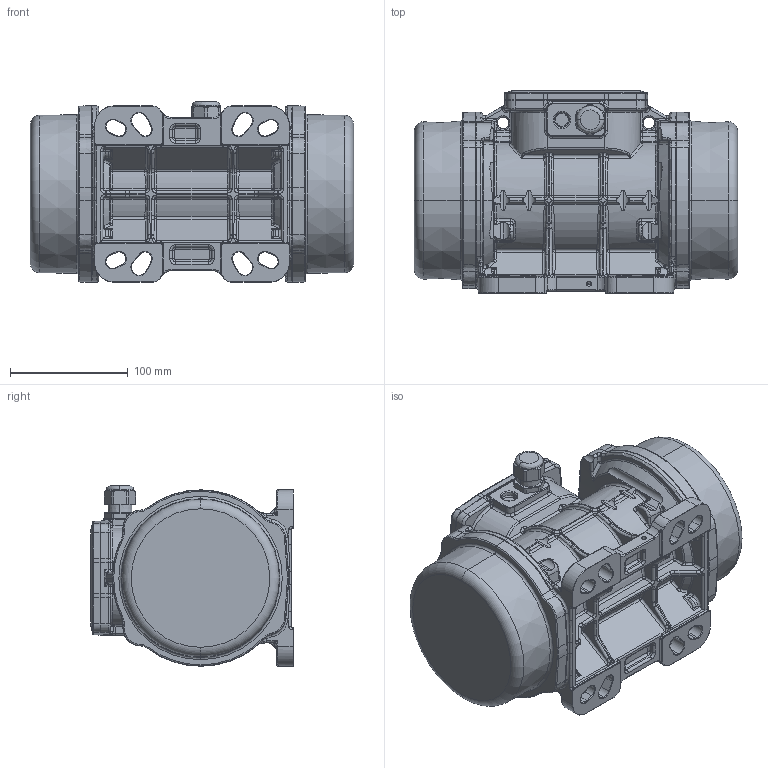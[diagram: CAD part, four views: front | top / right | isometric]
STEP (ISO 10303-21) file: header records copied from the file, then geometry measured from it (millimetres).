
FILE_DESCRIPTION (( 'STEP AP203' ), '1' );
FILE_NAME ('MVE400-3-36_MVE200-15-18_MVE50-1-12.STEP', '2018-05-29T08:14:07', ( 'dma' ), ( '' ), 'SwSTEP 2.0', 'SolidWorks 2016', '' );
FILE_SCHEMA (( 'CONFIG_CONTROL_DESIGN' ));
Length unit declared in the file: millimetre
Products named in the file (1): MVE400-3-36_MVE200-15-18_MVE50-1-12
Bounding box: 275 x 172.5 x 153.46 mm (x, y, z)
Volume: 3897502.7 mm3; surface area: 237454.7 mm2
Topology: 1 solids, 1 shells, 2441 faces, 5905 edges, 3413 vertices
Faces by surface type: cylinder 763, bspline 650, plane 446, torus 293, sphere 176, cone 113
Entity records: 87990 total; most frequent: CARTESIAN_POINT 36379, ORIENTED_EDGE 11608, DIRECTION 10112, EDGE_CURVE 5804, AXIS2_PLACEMENT_3D 4109, VERTEX_POINT 3401, EDGE_LOOP 2497, ADVANCED_FACE 2441
